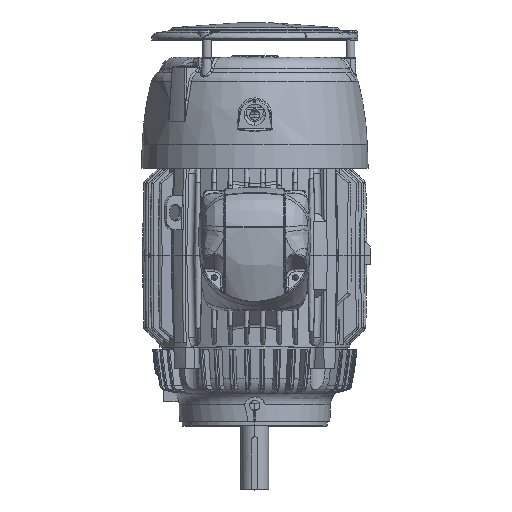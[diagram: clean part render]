
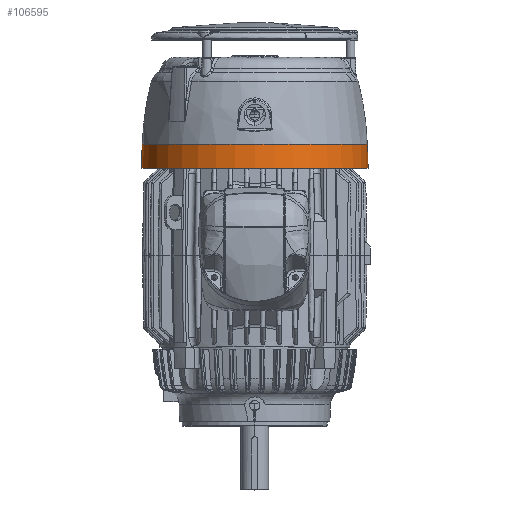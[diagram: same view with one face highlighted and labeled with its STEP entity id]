
A CAD part, top view. The second image highlights one B-rep face of the part: STEP entity #106595.
In plain terms, the highlighted conical face has half-angle 2 degrees and reference radius 168.412 mm.
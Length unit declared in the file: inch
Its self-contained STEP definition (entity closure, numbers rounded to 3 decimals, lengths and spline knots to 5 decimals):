
#86017=DIRECTION('',(0.,0.035,0.999));
#86018=VECTOR('',#86017,1.41078);
#86019=CARTESIAN_POINT('',(0.,6.60576,-1.40992));
#86020=LINE('',#86019,#86018);
#86021=DIRECTION('',(0.,-0.035,0.999));
#86022=VECTOR('',#86021,1.41078);
#86023=CARTESIAN_POINT('',(0.,-6.60576,-1.40992));
#86024=LINE('',#86023,#86022);
#86025=CARTESIAN_POINT('',(0.,0.,-1.40992));
#86026=DIRECTION('',(0.,0.,1.));
#86027=DIRECTION('',(0.,1.,0.));
#86028=AXIS2_PLACEMENT_3D('',#86025,#86026,#86027);
#86035=CARTESIAN_POINT('',(0.,0.,0.));
#86036=DIRECTION('',(0.,0.,1.));
#86037=DIRECTION('',(0.,1.,0.));
#86038=AXIS2_PLACEMENT_3D('',#86035,#86036,#86037);
#88135=CARTESIAN_POINT('',(0.,6.60576,-1.40992));
#88137=VERTEX_POINT('',#88135);
#88138=CARTESIAN_POINT('',(0.,6.655,0.));
#88139=VERTEX_POINT('',#88138);
#88141=CARTESIAN_POINT('',(0.,-6.60576,-1.40992));
#88143=VERTEX_POINT('',#88141);
#88144=CARTESIAN_POINT('',(0.,-6.655,0.));
#88145=VERTEX_POINT('',#88144);
#106581=CARTESIAN_POINT('',(0.,0.,-0.70496));
#106582=DIRECTION('',(0.,0.,1.));
#106583=DIRECTION('',(0.,1.,0.));
#106584=AXIS2_PLACEMENT_3D('',#106581,#106582,#106583);
#106585=CONICAL_SURFACE('',#106584,6.63038,2.);
#106587=ORIENTED_EDGE('',*,*,#106586,.T.);
#106589=ORIENTED_EDGE('',*,*,#106588,.T.);
#106591=ORIENTED_EDGE('',*,*,#106590,.F.);
#106592=ORIENTED_EDGE('',*,*,#104181,.F.);
#106593=EDGE_LOOP('',(#106587,#106589,#106591,#106592));
#106594=FACE_OUTER_BOUND('',#106593,.F.);
#106595=ADVANCED_FACE('',(#106594),#106585,.T.);
#86029=CIRCLE('',#86028,6.60576);
#86039=CIRCLE('',#86038,6.655);
#104181=EDGE_CURVE('',#88137,#88143,#86029,.T.);
#106586=EDGE_CURVE('',#88137,#88139,#86020,.T.);
#106588=EDGE_CURVE('',#88139,#88145,#86039,.T.);
#106590=EDGE_CURVE('',#88143,#88145,#86024,.T.);
